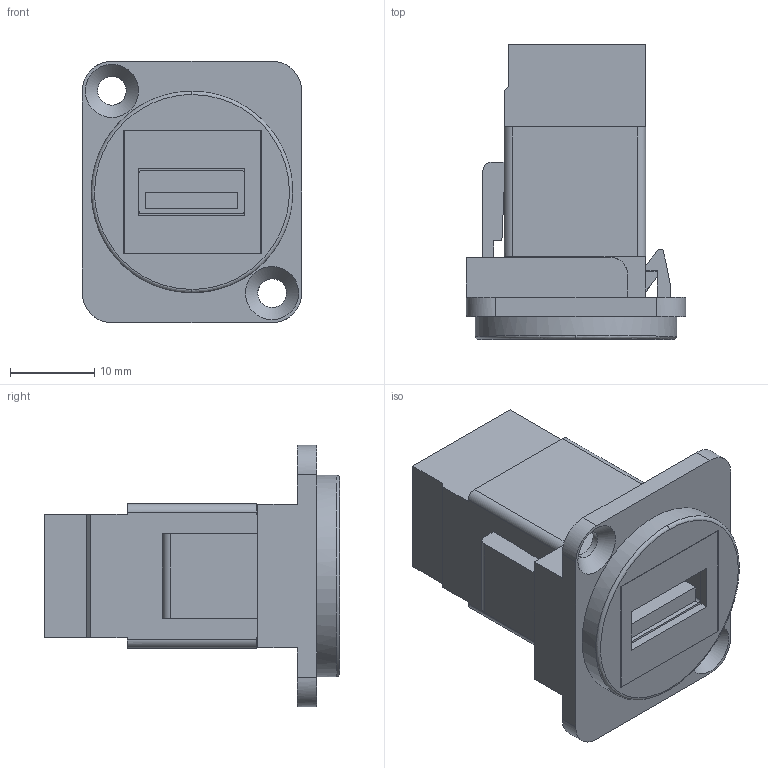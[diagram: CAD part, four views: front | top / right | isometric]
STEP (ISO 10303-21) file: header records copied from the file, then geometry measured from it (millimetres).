
FILE_DESCRIPTION(('FreeCAD Model'),'2;1');
FILE_NAME('Open CASCADE Shape Model','2026-05-13T14:26:16',(''),(''), 'Open CASCADE STEP processor 7.8','FreeCAD','Unknown');
FILE_SCHEMA(('AUTOMOTIVE_DESIGN { 1 0 10303 214 1 1 1 1 }'));
Length unit declared in the file: millimetre
Products named in the file (3): PMNST_USB3ACR_BK; 3013BUSXLRBK; 210USB05N2BK
Assembly tree (2 placements, depth 2):
  PMNST_USB3ACR_BK
    3013BUSXLRBK
    210USB05N2BK
Bounding box: 26 x 35 x 31 mm (x, y, z)
Volume: 10580.5 mm3; surface area: 7038.3 mm2
Topology: 2 solids, 2 shells, 139 faces, 381 edges, 254 vertices
Faces by surface type: bspline 139
Entity records: 6627 total; most frequent: CARTESIAN_POINT 4219, ORIENTED_EDGE 762, EDGE_CURVE 381, B_SPLINE_CURVE_WITH_KNOTS 381, VERTEX_POINT 254, FACE_BOUND 153, EDGE_LOOP 153, ADVANCED_FACE 139
